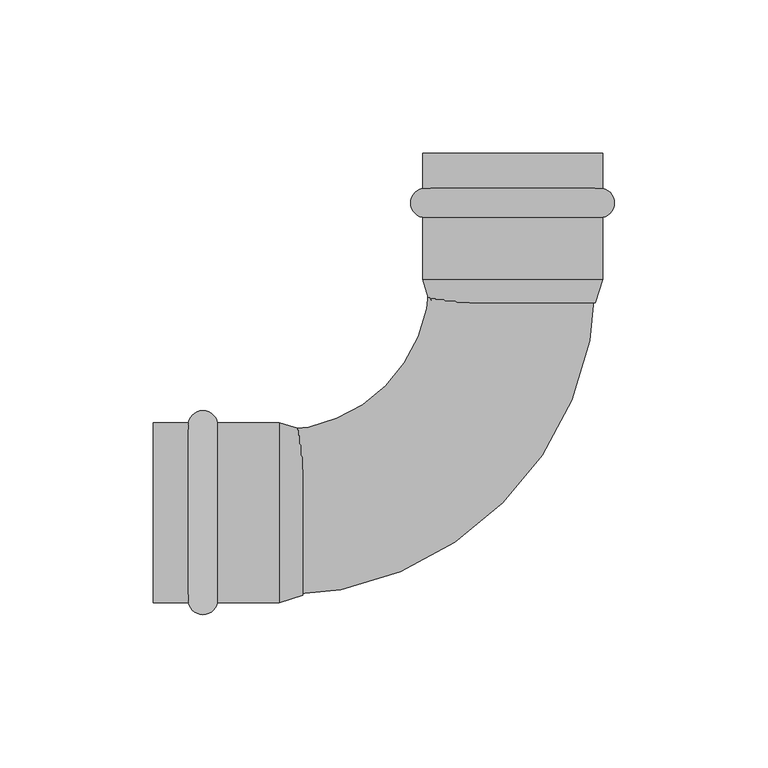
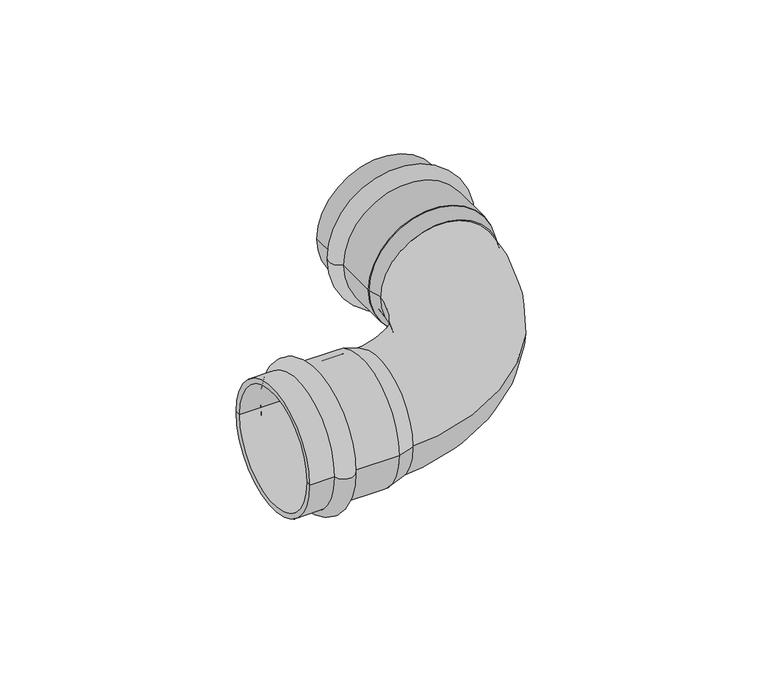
"""IFC4 building model written with IfcOpenShell, lengths in millimetres: pipe fitting geometry, VALTEC_VTi.951.I_Угольник 90° (раструб-раструб) нержавеющая сталь : VTi.951.I."""

from ifc_helpers import new_model, si_unit, point, frame, origin, place, context, project, spatial, polyline, circle_curve, ellipse_curve, trimmed, source, transform, mapped, element, save
from ifc_brep_helpers import plane_surface, cylinder_surface, revolved_surface, advanced_brep


def pipe_fitting_6731d4e9(model_context):
    return source(origin(), model_context, "Body", "AdvancedBrep", [
        advanced_brep(
        [(-105.6148701, -29.3, 0.0), (-105.6148701, 29.3, 0.0), (-96.1851299, 29.3, 0.0), (-96.1851299, -29.3, 0.0), (-117.0, -29.3, 0.0), (-117.0, 29.3, 0.0), (-117.0, -27.0, 0.0), (-117.0, 27.0, 0.0), (-76.05, -27.0, 0.0), (-76.05, 27.0, 0.0), (-76.05, -29.3, 0.0), (-76.05, 29.3, 0.0)],
        [
            (0, 1, circle_curve(frame((-105.6148701, 0.0, 0.0), z_axis=(1.0, 0.0, 0.0), x_axis=(0.0, 1.0, 0.0)), 29.3)),
            (1, 2, circle_curve(frame((-100.9, 28.4, 0.0), z_axis=(0.0, 0.0, -1.0), x_axis=(1.0, 0.0, 0.0)), 4.8)),
            (2, 3, circle_curve(frame((-96.1851299, 0.0, 0.0), z_axis=(-1.0, 0.0, 0.0), x_axis=(0.0, 1.0, 0.0)), 29.3)),
            (3, 0, circle_curve(frame((-100.9, -28.4, 0.0), z_axis=(0.0, 0.0, -1.0), x_axis=(1.0, 0.0, 0.0)), 4.8)),
            (1, 0, circle_curve(frame((-105.6148701, 0.0, 0.0), z_axis=(1.0, 0.0, 0.0), x_axis=(0.0, 1.0, 0.0)), 29.3)),
            (3, 2, circle_curve(frame((-96.1851299, 0.0, 0.0), z_axis=(-1.0, 0.0, 0.0), x_axis=(0.0, 1.0, 0.0)), 29.3)),
            (4, 5, circle_curve(frame((-117.0, 0.0, 0.0), z_axis=(1.0, 0.0, 0.0), x_axis=(0.0, 1.0, 0.0)), 29.3)),
            (5, 1),
            (0, 4),
            (5, 4, circle_curve(frame((-117.0, 0.0, 0.0), z_axis=(1.0, 0.0, 0.0), x_axis=(0.0, 1.0, 0.0)), 29.3)),
            (6, 7, circle_curve(frame((-117.0, 0.0, 0.0), z_axis=(1.0, 0.0, 0.0), x_axis=(0.0, 1.0, 0.0)), 27.0)),
            (7, 5),
            (4, 6),
            (7, 6, circle_curve(frame((-117.0, 0.0, 0.0), z_axis=(1.0, 0.0, 0.0), x_axis=(0.0, 1.0, 0.0)), 27.0)),
            (8, 9, circle_curve(frame((-76.05, 0.0, 0.0), z_axis=(1.0, 0.0, 0.0), x_axis=(0.0, 1.0, 0.0)), 27.0)),
            (9, 7),
            (6, 8),
            (9, 8, circle_curve(frame((-76.05, 0.0, 0.0), z_axis=(1.0, 0.0, 0.0), x_axis=(0.0, 1.0, 0.0)), 27.0)),
            (10, 11, circle_curve(frame((-76.05, 0.0, 0.0), z_axis=(1.0, 0.0, 0.0), x_axis=(0.0, 1.0, 0.0)), 29.3)),
            (11, 9),
            (8, 10),
            (11, 10, circle_curve(frame((-76.05, 0.0, 0.0), z_axis=(1.0, 0.0, 0.0), x_axis=(0.0, 1.0, 0.0)), 29.3)),
            (2, 11),
            (10, 3),
        ],
        [
            revolved_surface(trimmed(ellipse_curve(frame((-100.9, 28.4, 0.0), z_axis=(0.0, 0.0, 1.0), x_axis=(1.0, 0.0, 0.0)), 4.8, 4.8), [point((-96.1851299, 29.3, 0.0))], [point((-105.6148701, 29.3, 0.0))], True, "CARTESIAN"), (-120.5364426, 0.0, 0.0), (-1.0, 0.0, 0.0)),
            cylinder_surface(frame((-120.5364426, 0.0, 0.0), z_axis=(-1.0, 0.0, 0.0), x_axis=(0.0, 1.0, 0.0)), 29.3),
            plane_surface(frame((-117.0, 0.0, 0.0), z_axis=(-1.0, 0.0, 0.0), x_axis=(0.0, 1.0, 0.0))),
            revolved_surface(polyline([(-117.0, 27.0, 0.0), (-76.05, 27.0, 0.0)]), (-120.5364426, 0.0, 0.0), (-1.0, 0.0, 0.0)),
            plane_surface(frame((-76.05, 0.0, 0.0), z_axis=(1.0, 0.0, 0.0), x_axis=(0.0, 1.0, 0.0))),
        ],
        [
            (0, [[1, 2, 3, 4]]),
            (0, [[5, -4, 6, -2]]),
            (1, [[7, 8, -1, 9]]),
            (1, [[10, -9, -5, -8]]),
            (2, [[11, 12, -7, 13]]),
            (2, [[14, -13, -10, -12]]),
            (3, [[15, 16, -11, 17]]),
            (3, [[18, -17, -14, -16]]),
            (4, [[19, 20, -15, 21]]),
            (4, [[22, -21, -18, -20]]),
            (1, [[-3, 23, -19, 24]]),
            (1, [[-6, -24, -22, -23]]),
        ],
    ),
        advanced_brep(
        [(-29.3, 105.6148701, 0.0), (29.3, 105.6148701, 0.0), (29.3, 96.1851299, 0.0), (-29.3, 96.1851299, 0.0), (-29.3, 117.0, 0.0), (29.3, 117.0, 0.0), (-27.0, 117.0, 0.0), (27.0, 117.0, 0.0), (-27.0, 76.05, 0.0), (27.0, 76.05, 0.0), (-29.3, 76.05, 0.0), (29.3, 76.05, 0.0)],
        [
            (0, 1, circle_curve(frame((0.0, 105.6148701, 0.0), z_axis=(0.0, -1.0, 0.0), x_axis=(1.0, 0.0, 0.0)), 29.3)),
            (1, 2, circle_curve(frame((28.4, 100.9, 0.0), z_axis=(0.0, 0.0, -1.0), x_axis=(0.0, -1.0, 0.0)), 4.8)),
            (2, 3, circle_curve(frame((0.0, 96.1851299, 0.0), z_axis=(0.0, 1.0, 0.0), x_axis=(1.0, 0.0, 0.0)), 29.3)),
            (3, 0, circle_curve(frame((-28.4, 100.9, 0.0), z_axis=(0.0, 0.0, -1.0), x_axis=(0.0, -1.0, 0.0)), 4.8)),
            (1, 0, circle_curve(frame((0.0, 105.6148701, 0.0), z_axis=(0.0, -1.0, 0.0), x_axis=(1.0, 0.0, 0.0)), 29.3)),
            (3, 2, circle_curve(frame((0.0, 96.1851299, 0.0), z_axis=(0.0, 1.0, 0.0), x_axis=(1.0, 0.0, 0.0)), 29.3)),
            (4, 5, circle_curve(frame((0.0, 117.0, 0.0), z_axis=(0.0, -1.0, 0.0), x_axis=(1.0, 0.0, 0.0)), 29.3)),
            (5, 1),
            (0, 4),
            (5, 4, circle_curve(frame((0.0, 117.0, 0.0), z_axis=(0.0, -1.0, 0.0), x_axis=(1.0, 0.0, 0.0)), 29.3)),
            (6, 7, circle_curve(frame((0.0, 117.0, 0.0), z_axis=(0.0, -1.0, 0.0), x_axis=(1.0, 0.0, 0.0)), 27.0)),
            (7, 5),
            (4, 6),
            (7, 6, circle_curve(frame((0.0, 117.0, 0.0), z_axis=(0.0, -1.0, 0.0), x_axis=(1.0, 0.0, 0.0)), 27.0)),
            (8, 9, circle_curve(frame((0.0, 76.05, 0.0), z_axis=(0.0, -1.0, 0.0), x_axis=(1.0, 0.0, 0.0)), 27.0)),
            (9, 7),
            (6, 8),
            (9, 8, circle_curve(frame((0.0, 76.05, 0.0), z_axis=(0.0, -1.0, 0.0), x_axis=(1.0, 0.0, 0.0)), 27.0)),
            (10, 11, circle_curve(frame((0.0, 76.05, 0.0), z_axis=(0.0, -1.0, 0.0), x_axis=(1.0, 0.0, 0.0)), 29.3)),
            (11, 9),
            (8, 10),
            (11, 10, circle_curve(frame((0.0, 76.05, 0.0), z_axis=(0.0, -1.0, 0.0), x_axis=(1.0, 0.0, 0.0)), 29.3)),
            (2, 11),
            (10, 3),
        ],
        [
            revolved_surface(trimmed(ellipse_curve(frame((28.4, 100.9, 0.0), z_axis=(0.0, 0.0, 1.0), x_axis=(0.0, -1.0, 0.0)), 4.8, 4.8), [point((29.3, 96.1851299, 0.0))], [point((29.3, 105.6148701, 0.0))], True, "CARTESIAN"), (0.0, 120.5364426, 0.0), (0.0, 1.0, 0.0)),
            cylinder_surface(frame((0.0, 120.5364426, 0.0), z_axis=(0.0, 1.0, 0.0), x_axis=(1.0, 0.0, 0.0)), 29.3),
            plane_surface(frame((0.0, 117.0, 0.0), z_axis=(0.0, 1.0, 0.0), x_axis=(1.0, 0.0, 0.0))),
            revolved_surface(polyline([(27.0, 117.0, 0.0), (27.0, 76.05, 0.0)]), (0.0, 120.5364426, 0.0), (0.0, 1.0, 0.0)),
            plane_surface(frame((0.0, 76.05, 0.0), z_axis=(0.0, -1.0, 0.0), x_axis=(1.0, 0.0, 0.0))),
        ],
        [
            (0, [[1, 2, 3, 4]]),
            (0, [[5, -4, 6, -2]]),
            (1, [[7, 8, -1, 9]]),
            (1, [[10, -9, -5, -8]]),
            (2, [[11, 12, -7, 13]]),
            (2, [[14, -13, -10, -12]]),
            (3, [[15, 16, -11, 17]]),
            (3, [[18, -17, -14, -16]]),
            (4, [[19, 20, -15, 21]]),
            (4, [[22, -21, -18, -20]]),
            (1, [[-3, 23, -19, 24]]),
            (1, [[-6, -24, -22, -23]]),
        ],
    ),
        advanced_brep(
        [(-76.05, -29.3, 0.0), (-76.05, 29.3, 0.0), (-68.445, -27.0, 0.0), (-68.445, 27.0, 0.0)],
        [
            (0, 1, circle_curve(frame((-76.05, 0.0, 0.0), z_axis=(-1.0, 0.0, 0.0), x_axis=(0.0, -1.0, 0.0)), 29.3)),
            (1, 0, circle_curve(frame((-76.05, 0.0, 0.0), z_axis=(-1.0, 0.0, 0.0), x_axis=(0.0, 1.0, 0.0)), 29.3)),
            (2, 3, circle_curve(frame((-68.445, 0.0, 0.0), z_axis=(1.0, 0.0, 0.0), x_axis=(0.0, 1.0, 0.0)), 27.0)),
            (3, 2, circle_curve(frame((-68.445, 0.0, 0.0), z_axis=(1.0, 0.0, 0.0), x_axis=(0.0, -1.0, 0.0)), 27.0)),
            (2, 0),
            (1, 3),
        ],
        [
            plane_surface(frame((-76.05, 0.0, 0.0), z_axis=(-1.0, 0.0, 0.0), x_axis=(0.0, 0.0, -1.0))),
            plane_surface(frame((-68.445, 0.0, 0.0), z_axis=(1.0, 0.0, 0.0), x_axis=(0.0, 0.0, -1.0))),
            revolved_surface(polyline([(-68.445, -27.000000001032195, 0.0), (-76.05, -29.3, 0.0)]), (20.831087, 0.0, 0.0), (-1.0, 0.0, 0.0)),
            revolved_surface(polyline([(-68.445, 27.000000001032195, 0.0), (-76.05, 29.3, 0.0)]), (20.831087, 0.0, 0.0), (-1.0, 0.0, 0.0)),
        ],
        [
            (0, [[1, 2]]),
            (1, [[3, 4]]),
            (2, [[-3, 5, -2, 6]]),
            (3, [[-4, -6, -1, -5]]),
        ],
    ),
        advanced_brep(
        [(-29.3, 76.05, 0.0), (29.3, 76.05, 0.0), (-27.0, 68.445, 0.0), (27.0, 68.445, 0.0)],
        [
            (0, 1, circle_curve(frame((0.0, 76.05, 0.0), z_axis=(0.0, 1.0, 0.0), x_axis=(-1.0, 0.0, 0.0)), 29.3)),
            (1, 0, circle_curve(frame((0.0, 76.05, 0.0), z_axis=(0.0, 1.0, 0.0), x_axis=(1.0, 0.0, 0.0)), 29.3)),
            (2, 3, circle_curve(frame((0.0, 68.445, 0.0), z_axis=(0.0, -1.0, 0.0), x_axis=(1.0, 0.0, 0.0)), 27.0)),
            (3, 2, circle_curve(frame((0.0, 68.445, 0.0), z_axis=(0.0, -1.0, 0.0), x_axis=(-1.0, 0.0, 0.0)), 27.0)),
            (2, 0),
            (1, 3),
        ],
        [
            plane_surface(frame((0.0, 76.05, 0.0), z_axis=(0.0, 1.0, 0.0), x_axis=(0.0, 0.0, -1.0))),
            plane_surface(frame((0.0, 68.445, 0.0), z_axis=(0.0, -1.0, 0.0), x_axis=(0.0, 0.0, -1.0))),
            revolved_surface(polyline([(-27.000000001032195, 68.445, 0.0), (-29.3, 76.05, 0.0)]), (0.0, -20.831087, 0.0), (0.0, 1.0, 0.0)),
            revolved_surface(polyline([(27.000000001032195, 68.445, 0.0), (29.3, 76.05, 0.0)]), (0.0, -20.831087, 0.0), (0.0, 1.0, 0.0)),
        ],
        [
            (0, [[1, 2]]),
            (1, [[3, 4]]),
            (2, [[-3, 5, -2, 6]]),
            (3, [[-4, -6, -1, -5]]),
        ],
    ),
        advanced_brep(
        [(-76.05, -27.0551605, 0.0), (-76.05, 26.9448395, 0.0), (27.0551605, 76.05, 0.0), (-26.9448395, 76.05, 0.0)],
        [
            (0, 1, circle_curve(frame((-76.05, -0.0551605, 0.0), z_axis=(-1.0, 0.0, 0.0), x_axis=(0.0, 1.0, 0.0)), 27.0)),
            (1, 0, circle_curve(frame((-76.05, -0.0551605, 0.0), z_axis=(-1.0, 0.0, 0.0), x_axis=(0.0, 1.0, 0.0)), 27.0)),
            (2, 3, circle_curve(frame((0.0551605, 76.05, 0.0), z_axis=(0.0, 1.0, 0.0), x_axis=(-1.0, 0.0, 0.0)), 27.0)),
            (3, 2, circle_curve(frame((0.0551605, 76.05, 0.0), z_axis=(0.0, 1.0, 0.0), x_axis=(-1.0, 0.0, 0.0)), 27.0)),
            (3, 1, circle_curve(frame((-76.05, 76.05, 0.0), z_axis=(0.0, 0.0, -1.0), x_axis=(0.0, -1.0, 0.0)), 49.1051605)),
            (0, 2, circle_curve(frame((-76.05, 76.05, 0.0), z_axis=(0.0, 0.0, 1.0), x_axis=(0.0, -1.0, 0.0)), 103.1051605)),
        ],
        [
            plane_surface(frame((-76.05, 0.0, 0.0), z_axis=(-1.0, 0.0, 0.0), x_axis=(0.0, 0.0, 1.0))),
            plane_surface(frame((0.0, 76.05, 0.0), z_axis=(0.0, 1.0, 0.0), x_axis=(0.0, 0.0, 1.0))),
            revolved_surface(trimmed(ellipse_curve(frame((-76.05, -0.0551605, 0.0), z_axis=(-1.0, 0.0, 0.0), x_axis=(0.0, 1.0, 0.0)), 27.0, 27.0), [point((-76.05, -27.0551605, 0.0))], [point((-76.05, 26.9448395, 0.0))], True, "CARTESIAN"), (-76.05, 76.05, 0.0), (0.0, 0.0, 1.0)),
            revolved_surface(trimmed(ellipse_curve(frame((-76.05, -0.0551605, 0.0), z_axis=(-1.0, 0.0, 0.0), x_axis=(0.0, 1.0, 0.0)), 27.0, 27.0), [point((-76.05, 26.9448395, 0.0))], [point((-76.05, -27.0551605, 0.0))], True, "CARTESIAN"), (-76.05, 76.05, 0.0), (0.0, 0.0, 1.0)),
        ],
        [
            (0, [[1, 2]]),
            (1, [[3, 4]]),
            (2, [[5, -1, 6, -4]]),
            (3, [[-6, -2, -5, -3]]),
        ],
    ),
    ])


if __name__ == "__main__":
    model = new_model("IFC4")
    model_context = context("Model", 3, world=origin())
    ifc_project = project(units=[si_unit("LENGTHUNIT", "METRE", prefix="MILLI")], contexts=[model_context])
    site = spatial("IfcSite", under=ifc_project)
    building = spatial("IfcBuilding", under=site)
    placement = place(None, origin())
    pipe_fitting_shape = pipe_fitting_6731d4e9(model_context)
    element("IfcPipeFitting", 1, ObjectType="VALTEC_VTi.951.I_Угольник 90° (раструб-раструб) нержавеющая сталь : VTi.951.I", at=placement, inside=building, context=model_context, shape_type="MappedRepresentation", body=[
        mapped(pipe_fitting_shape, transform((0.0, 0.0, 0.0), x_axis=(1.0, 0.0, 0.0), y_axis=(0.0, 1.0, 0.0), z_axis=(0.0, 0.0, 1.0))),
    ])
    save(model, "model.ifc")
